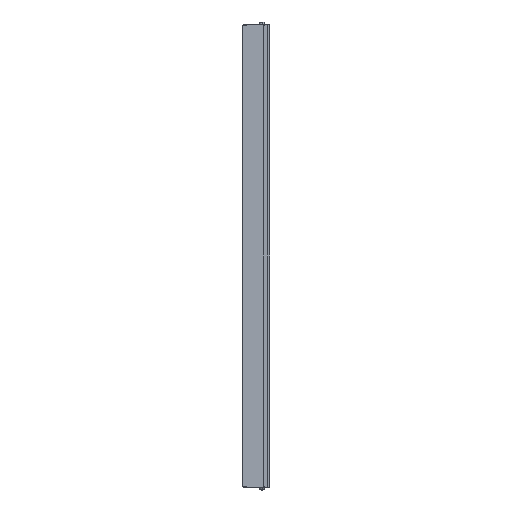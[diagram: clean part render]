
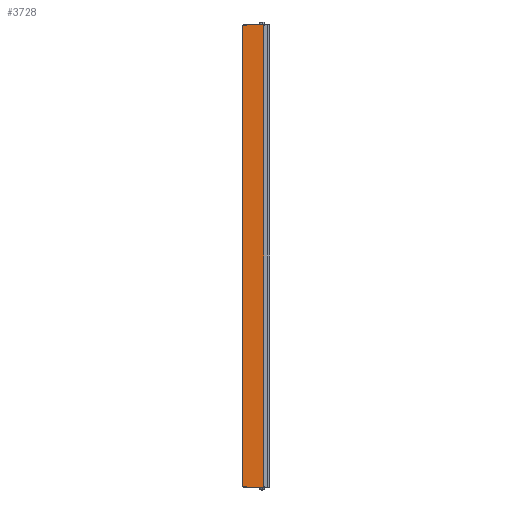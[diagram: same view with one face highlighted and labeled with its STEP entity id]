
A CAD part, left-side view. The second image highlights one B-rep face of the part: STEP entity #3728.
In plain terms, the highlighted planar face has unit normal (-1, 0, 0).
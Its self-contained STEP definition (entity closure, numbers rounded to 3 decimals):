
#185=DIRECTION('',(0.,1.,0.));
#186=VECTOR('',#185,3.3);
#187=CARTESIAN_POINT('',(-19.,13.2,229.5));
#188=LINE('',#187,#186);
#417=DIRECTION('',(0.,0.,-1.));
#418=VECTOR('',#417,1.);
#419=CARTESIAN_POINT('',(-19.,13.2,-229.5));
#420=LINE('',#419,#418);
#429=DIRECTION('',(0.,1.,0.));
#430=VECTOR('',#429,3.3);
#431=CARTESIAN_POINT('',(-19.,13.2,-229.5));
#432=LINE('',#431,#430);
#433=DIRECTION('',(0.,0.,1.));
#434=VECTOR('',#433,1.);
#435=CARTESIAN_POINT('',(-19.,13.2,229.5));
#436=LINE('',#435,#434);
#441=DIRECTION('',(0.,0.,1.));
#442=VECTOR('',#441,461.);
#443=CARTESIAN_POINT('',(-19.,-4.3,-230.5));
#444=LINE('',#443,#442);
#989=DIRECTION('',(0.,-1.,0.));
#990=VECTOR('',#989,17.5);
#991=CARTESIAN_POINT('',(-19.,13.2,-230.5));
#992=LINE('',#991,#990);
#2085=DIRECTION('',(0.,1.,0.));
#2086=VECTOR('',#2085,17.5);
#2087=CARTESIAN_POINT('',(-19.,-4.3,230.5));
#2088=LINE('',#2087,#2086);
#2321=DIRECTION('',(0.,0.,-1.));
#2322=VECTOR('',#2321,459.);
#2323=CARTESIAN_POINT('',(-19.,16.5,229.5));
#2324=LINE('',#2323,#2322);
#2357=CARTESIAN_POINT('',(-19.,16.5,-229.5));
#2358=VERTEX_POINT('',#2357);
#2367=CARTESIAN_POINT('',(-19.,16.5,229.5));
#2368=VERTEX_POINT('',#2367);
#2457=CARTESIAN_POINT('',(-19.,13.2,230.5));
#2458=VERTEX_POINT('',#2457);
#2663=CARTESIAN_POINT('',(-19.,-4.3,230.5));
#2665=VERTEX_POINT('',#2663);
#2745=CARTESIAN_POINT('',(-19.,13.2,229.5));
#2747=VERTEX_POINT('',#2745);
#2775=CARTESIAN_POINT('',(-19.,13.2,-230.5));
#2777=VERTEX_POINT('',#2775);
#2781=CARTESIAN_POINT('',(-19.,-4.3,-230.5));
#2782=VERTEX_POINT('',#2781);
#3011=CARTESIAN_POINT('',(-19.,13.2,-229.5));
#3012=VERTEX_POINT('',#3011);
#3709=CARTESIAN_POINT('',(-19.,16.5,-229.5));
#3710=DIRECTION('',(-1.,0.,0.));
#3711=DIRECTION('',(0.,-1.,0.));
#3712=AXIS2_PLACEMENT_3D('',#3709,#3710,#3711);
#3713=PLANE('',#3712);
#3715=ORIENTED_EDGE('',*,*,#3714,.F.);
#3717=ORIENTED_EDGE('',*,*,#3716,.F.);
#3718=ORIENTED_EDGE('',*,*,#3700,.F.);
#3719=ORIENTED_EDGE('',*,*,#3126,.T.);
#3721=ORIENTED_EDGE('',*,*,#3720,.F.);
#3722=ORIENTED_EDGE('',*,*,#3356,.F.);
#3723=ORIENTED_EDGE('',*,*,#3545,.T.);
#3725=ORIENTED_EDGE('',*,*,#3724,.F.);
#3726=EDGE_LOOP('',(#3715,#3717,#3718,#3719,#3721,#3722,#3723,#3725));
#3727=FACE_OUTER_BOUND('',#3726,.F.);
#3126=EDGE_CURVE('',#3012,#2358,#432,.T.);
#3356=EDGE_CURVE('',#2747,#2368,#188,.T.);
#3545=EDGE_CURVE('',#2747,#2458,#436,.T.);
#3700=EDGE_CURVE('',#3012,#2777,#420,.T.);
#3714=EDGE_CURVE('',#2782,#2665,#444,.T.);
#3716=EDGE_CURVE('',#2777,#2782,#992,.T.);
#3720=EDGE_CURVE('',#2368,#2358,#2324,.T.);
#3724=EDGE_CURVE('',#2665,#2458,#2088,.T.);
#3728=ADVANCED_FACE('',(#3727),#3713,.T.);
